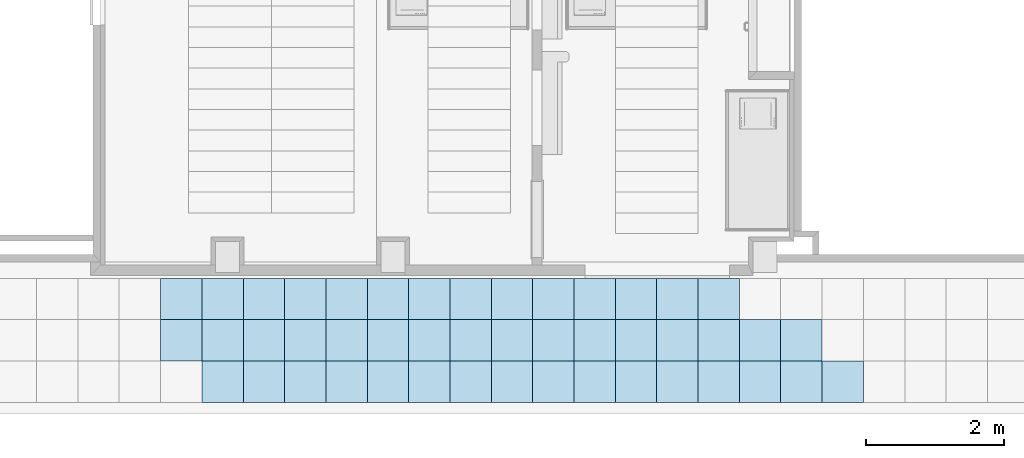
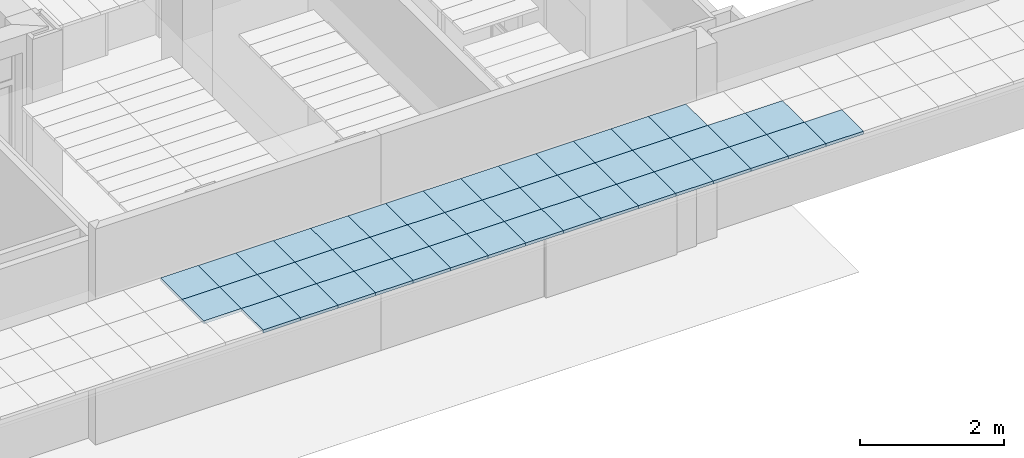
# One storey, part 20 of 60: 46 slabs.
"""IFC2X3 building model written with IfcOpenShell, lengths in millimetres."""

from ifc_helpers import new_model, entity, si_unit, converted_unit, derived_unit, money_unit, direction, frame, origin_with_axes, place, context, subcontext, project, spatial, polyline, outline, extrude, material, layer, layer_set, layer_usage, type_object, element, save


model = new_model("IFC2X3")

# Units and contexts
model_context = context("Model", 3, precision=0.01, world=origin_with_axes(), true_north=direction((0.0, 1.0)))
body_context = subcontext(model_context, "Body", "Model", "MODEL_VIEW")
ifc_project = project(units=[si_unit("LENGTHUNIT", "METRE", prefix="MILLI"), si_unit("AREAUNIT", "SQUARE_METRE"), si_unit("VOLUMEUNIT", "CUBIC_METRE"), converted_unit("PLANEANGLEUNIT", "DEGREE", entity("IfcPlaneAngleMeasure", 0.0174532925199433), si_unit("PLANEANGLEUNIT", "RADIAN"), dimensions=[0, 0, 0, 0, 0, 0, 0]), money_unit("USD"), converted_unit("TIMEUNIT", "Year", entity("IfcTimeMeasure", 31557600.0), si_unit("TIMEUNIT", "SECOND"), dimensions=[0, 0, 1, 0, 0, 0, 0]), si_unit("MASSUNIT", "GRAM", prefix="KILO"), si_unit("THERMODYNAMICTEMPERATUREUNIT", "DEGREE_CELSIUS"), si_unit("LUMINOUSINTENSITYUNIT", "LUMEN"), si_unit("ENERGYUNIT", "JOULE", prefix="MEGA"), derived_unit("THERMALCONDUCTANCEUNIT", [(si_unit("POWERUNIT", "WATT"), 1), (si_unit("LENGTHUNIT", "METRE"), -1), (si_unit("THERMODYNAMICTEMPERATUREUNIT", "KELVIN"), -1)]), derived_unit("SPECIFICHEATCAPACITYUNIT", [(si_unit("ENERGYUNIT", "JOULE"), 1), (si_unit("MASSUNIT", "GRAM", prefix="KILO"), -1), (si_unit("THERMODYNAMICTEMPERATUREUNIT", "KELVIN"), -1)]), derived_unit("MASSDENSITYUNIT", [(si_unit("MASSUNIT", "GRAM", prefix="KILO"), 1), (si_unit("VOLUMEUNIT", "CUBIC_METRE"), -1)])], contexts=[model_context])

# Site, building, storey
site_placement = place(None, origin_with_axes())
site = spatial("IfcSite", under=ifc_project, at=site_placement, Name="Sitio", CompositionType="ELEMENT")
building_placement = place(site_placement, origin_with_axes())
building = spatial("IfcBuilding", under=site, at=building_placement, Name="Construcción", CompositionType="ELEMENT")
storey_placement = place(building_placement, frame((0.0, 0.0, 3650.0), z_axis=(0.0, 0.0, 1.0), x_axis=(1.0, 0.0, 0.0)))
storey = spatial("IfcBuildingStorey", under=building, at=storey_placement, Name="PLANTA 2ª", CompositionType="ELEMENT", Elevation=3650.0)

# Slabs
ifc_material = material(Name="ARQ_CE217_Armstrong 60x60")
ifc_layer = layer(ifc_material, 50.0, ventilated="UNKNOWN")
ifc_layer_set = layer_set([ifc_layer], Name="ARQ_CE217_Armstrong 60x60 50")
ifc_layer_usage_1 = layer_usage(ifc_layer_set, "AXIS3", "NEGATIVE", 50.0)
slab_type = type_object("IfcSlabType", Name="ARQ_CE217_Armstrong 60x60 50", PredefinedType="NOTDEFINED")
slab_1_placement = place(storey_placement, frame((-2769.703283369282, -18521.97576450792, 2500.0), z_axis=(0.0, 0.0, 1.0), x_axis=(1.0, 0.0, 0.0)))
element("IfcSlab", 1, at=slab_1_placement, inside=storey, type_object=slab_type, material=ifc_layer_usage_1, Name="SLA - 026", PredefinedType="NOTDEFINED", context=body_context, shape_type="SweptSolid", body=[
    extrude(outline(polyline([(0.0, 0.0), (600.0000000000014, 0.0), (600.0000000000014, 600.0000000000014), (0.0, 600.0000000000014), (0.0, 0.0)])), frame((0.0, 0.0, -50.0), z_axis=(0.0, 0.0, 1.0), x_axis=(1.0, 0.0, 0.0)), (0.0, 0.0, 1.0), 50.0),
])
ifc_layer_usage_2 = layer_usage(ifc_layer_set, "AXIS3", "NEGATIVE", 50.0)
slab_2_placement = place(storey_placement, frame((-2769.703283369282, -17921.97576450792, 2500.0), z_axis=(0.0, 0.0, 1.0), x_axis=(1.0, 0.0, 0.0)))
element("IfcSlab", 2, at=slab_2_placement, inside=storey, type_object=slab_type, material=ifc_layer_usage_2, Name="SLA - 026", PredefinedType="NOTDEFINED", context=body_context, shape_type="SweptSolid", body=[
    extrude(outline(polyline([(0.0, 0.0), (600.0000000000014, 0.0), (600.0000000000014, 600.0000000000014), (0.0, 600.0000000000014), (0.0, 0.0)])), frame((0.0, 0.0, -50.0), z_axis=(0.0, 0.0, 1.0), x_axis=(1.0, 0.0, 0.0)), (0.0, 0.0, 1.0), 50.0),
])
ifc_layer_usage_3 = layer_usage(ifc_layer_set, "AXIS3", "NEGATIVE", 50.0)
slab_3_placement = place(storey_placement, frame((-2169.70328336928, -18521.97576450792, 2500.0), z_axis=(0.0, 0.0, 1.0), x_axis=(1.0, 0.0, 0.0)))
element("IfcSlab", 3, at=slab_3_placement, inside=storey, type_object=slab_type, material=ifc_layer_usage_3, Name="SLA - 026", PredefinedType="NOTDEFINED", context=body_context, shape_type="SweptSolid", body=[
    extrude(outline(polyline([(0.0, 0.0), (600.0000000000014, 0.0), (600.0000000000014, 600.0000000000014), (0.0, 600.0000000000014), (0.0, 0.0)])), frame((0.0, 0.0, -50.0), z_axis=(0.0, 0.0, 1.0), x_axis=(1.0, 0.0, 0.0)), (0.0, 0.0, 1.0), 50.0),
])
ifc_layer_usage_4 = layer_usage(ifc_layer_set, "AXIS3", "NEGATIVE", 50.0)
slab_4_placement = place(storey_placement, frame((-2169.70328336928, -19121.97576450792, 2500.0), z_axis=(0.0, 0.0, 1.0), x_axis=(1.0, 0.0, 0.0)))
element("IfcSlab", 4, at=slab_4_placement, inside=storey, type_object=slab_type, material=ifc_layer_usage_4, Name="SLA - 026", PredefinedType="NOTDEFINED", context=body_context, shape_type="SweptSolid", body=[
    extrude(outline(polyline([(0.0, 0.0), (600.0000000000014, 0.0), (600.0000000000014, 600.0000000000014), (0.0, 600.0000000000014), (0.0, 0.0)])), frame((0.0, 0.0, -50.0), z_axis=(0.0, 0.0, 1.0), x_axis=(1.0, 0.0, 0.0)), (0.0, 0.0, 1.0), 50.0),
])
ifc_layer_usage_5 = layer_usage(ifc_layer_set, "AXIS3", "NEGATIVE", 50.0)
slab_5_placement = place(storey_placement, frame((-1569.703283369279, -19121.97576450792, 2500.0), z_axis=(0.0, 0.0, 1.0), x_axis=(1.0, 0.0, 0.0)))
element("IfcSlab", 5, at=slab_5_placement, inside=storey, type_object=slab_type, material=ifc_layer_usage_5, Name="SLA - 026", PredefinedType="NOTDEFINED", context=body_context, shape_type="SweptSolid", body=[
    extrude(outline(polyline([(0.0, 0.0), (600.0000000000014, 0.0), (600.0000000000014, 600.0000000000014), (0.0, 600.0000000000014), (0.0, 0.0)])), frame((0.0, 0.0, -50.0), z_axis=(0.0, 0.0, 1.0), x_axis=(1.0, 0.0, 0.0)), (0.0, 0.0, 1.0), 50.0),
])
ifc_layer_usage_6 = layer_usage(ifc_layer_set, "AXIS3", "NEGATIVE", 50.0)
slab_6_placement = place(storey_placement, frame((-1569.703283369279, -17921.97576450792, 2500.0), z_axis=(0.0, 0.0, 1.0), x_axis=(1.0, 0.0, 0.0)))
element("IfcSlab", 6, at=slab_6_placement, inside=storey, type_object=slab_type, material=ifc_layer_usage_6, Name="SLA - 026", PredefinedType="NOTDEFINED", context=body_context, shape_type="SweptSolid", body=[
    extrude(outline(polyline([(0.0, 0.0), (600.0000000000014, 0.0), (600.0000000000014, 600.0000000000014), (0.0, 600.0000000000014), (0.0, 0.0)])), frame((0.0, 0.0, -50.0), z_axis=(0.0, 0.0, 1.0), x_axis=(1.0, 0.0, 0.0)), (0.0, 0.0, 1.0), 50.0),
])
ifc_layer_usage_7 = layer_usage(ifc_layer_set, "AXIS3", "NEGATIVE", 50.0)
slab_7_placement = place(storey_placement, frame((-1569.703283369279, -18521.97576450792, 2500.0), z_axis=(0.0, 0.0, 1.0), x_axis=(1.0, 0.0, 0.0)))
element("IfcSlab", 7, at=slab_7_placement, inside=storey, type_object=slab_type, material=ifc_layer_usage_7, Name="SLA - 026", PredefinedType="NOTDEFINED", context=body_context, shape_type="SweptSolid", body=[
    extrude(outline(polyline([(0.0, 0.0), (600.0000000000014, 0.0), (600.0000000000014, 600.0000000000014), (0.0, 600.0000000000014), (0.0, 0.0)])), frame((0.0, 0.0, -50.0), z_axis=(0.0, 0.0, 1.0), x_axis=(1.0, 0.0, 0.0)), (0.0, 0.0, 1.0), 50.0),
])
ifc_layer_usage_8 = layer_usage(ifc_layer_set, "AXIS3", "NEGATIVE", 50.0)
slab_8_placement = place(storey_placement, frame((-969.7032833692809, -19121.97576450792, 2500.0), z_axis=(0.0, 0.0, 1.0), x_axis=(1.0, 0.0, 0.0)))
element("IfcSlab", 8, at=slab_8_placement, inside=storey, type_object=slab_type, material=ifc_layer_usage_8, Name="SLA - 026", PredefinedType="NOTDEFINED", context=body_context, shape_type="SweptSolid", body=[
    extrude(outline(polyline([(0.0, 0.0), (600.0000000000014, 0.0), (600.0000000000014, 600.0000000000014), (0.0, 600.0000000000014), (0.0, 0.0)])), frame((0.0, 0.0, -50.0), z_axis=(0.0, 0.0, 1.0), x_axis=(1.0, 0.0, 0.0)), (0.0, 0.0, 1.0), 50.0),
])
ifc_layer_usage_9 = layer_usage(ifc_layer_set, "AXIS3", "NEGATIVE", 50.0)
slab_9_placement = place(storey_placement, frame((-969.7032833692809, -18521.97576450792, 2500.0), z_axis=(0.0, 0.0, 1.0), x_axis=(1.0, 0.0, 0.0)))
element("IfcSlab", 9, at=slab_9_placement, inside=storey, type_object=slab_type, material=ifc_layer_usage_9, Name="SLA - 026", PredefinedType="NOTDEFINED", context=body_context, shape_type="SweptSolid", body=[
    extrude(outline(polyline([(0.0, 0.0), (600.0000000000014, 0.0), (600.0000000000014, 600.0000000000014), (0.0, 600.0000000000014), (0.0, 0.0)])), frame((0.0, 0.0, -50.0), z_axis=(0.0, 0.0, 1.0), x_axis=(1.0, 0.0, 0.0)), (0.0, 0.0, 1.0), 50.0),
])
ifc_layer_usage_10 = layer_usage(ifc_layer_set, "AXIS3", "NEGATIVE", 50.0)
slab_10_placement = place(storey_placement, frame((-2169.70328336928, -17921.97576450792, 2500.0), z_axis=(0.0, 0.0, 1.0), x_axis=(1.0, 0.0, 0.0)))
element("IfcSlab", 10, at=slab_10_placement, inside=storey, type_object=slab_type, material=ifc_layer_usage_10, Name="SLA - 026", PredefinedType="NOTDEFINED", context=body_context, shape_type="SweptSolid", body=[
    extrude(outline(polyline([(0.0, 0.0), (600.0000000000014, 0.0), (600.0000000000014, 600.0000000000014), (0.0, 600.0000000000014), (0.0, 0.0)])), frame((0.0, 0.0, -50.0), z_axis=(0.0, 0.0, 1.0), x_axis=(1.0, 0.0, 0.0)), (0.0, 0.0, 1.0), 50.0),
])
ifc_layer_usage_11 = layer_usage(ifc_layer_set, "AXIS3", "NEGATIVE", 50.0)
slab_11_placement = place(storey_placement, frame((-969.7032833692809, -17921.97576450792, 2500.0), z_axis=(0.0, 0.0, 1.0), x_axis=(1.0, 0.0, 0.0)))
element("IfcSlab", 11, at=slab_11_placement, inside=storey, type_object=slab_type, material=ifc_layer_usage_11, Name="SLA - 026", PredefinedType="NOTDEFINED", context=body_context, shape_type="SweptSolid", body=[
    extrude(outline(polyline([(0.0, 0.0), (600.0000000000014, 0.0), (600.0000000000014, 600.0000000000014), (0.0, 600.0000000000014), (0.0, 0.0)])), frame((0.0, 0.0, -50.0), z_axis=(0.0, 0.0, 1.0), x_axis=(1.0, 0.0, 0.0)), (0.0, 0.0, 1.0), 50.0),
])
ifc_layer_usage_12 = layer_usage(ifc_layer_set, "AXIS3", "NEGATIVE", 50.0)
slab_12_placement = place(storey_placement, frame((-369.7032833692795, -18521.97576450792, 2500.0), z_axis=(0.0, 0.0, 1.0), x_axis=(1.0, 0.0, 0.0)))
element("IfcSlab", 12, at=slab_12_placement, inside=storey, type_object=slab_type, material=ifc_layer_usage_12, Name="SLA - 026", PredefinedType="NOTDEFINED", context=body_context, shape_type="SweptSolid", body=[
    extrude(outline(polyline([(0.0, 0.0), (600.0000000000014, 0.0), (600.0000000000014, 600.0000000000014), (0.0, 600.0000000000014), (0.0, 0.0)])), frame((0.0, 0.0, -50.0), z_axis=(0.0, 0.0, 1.0), x_axis=(1.0, 0.0, 0.0)), (0.0, 0.0, 1.0), 50.0),
])
ifc_layer_usage_13 = layer_usage(ifc_layer_set, "AXIS3", "NEGATIVE", 50.0)
slab_13_placement = place(storey_placement, frame((-369.7032833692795, -19121.97576450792, 2500.0), z_axis=(0.0, 0.0, 1.0), x_axis=(1.0, 0.0, 0.0)))
element("IfcSlab", 13, at=slab_13_placement, inside=storey, type_object=slab_type, material=ifc_layer_usage_13, Name="SLA - 026", PredefinedType="NOTDEFINED", context=body_context, shape_type="SweptSolid", body=[
    extrude(outline(polyline([(0.0, 0.0), (600.0000000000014, 0.0), (600.0000000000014, 600.0000000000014), (0.0, 600.0000000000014), (0.0, 0.0)])), frame((0.0, 0.0, -50.0), z_axis=(0.0, 0.0, 1.0), x_axis=(1.0, 0.0, 0.0)), (0.0, 0.0, 1.0), 50.0),
])
ifc_layer_usage_14 = layer_usage(ifc_layer_set, "AXIS3", "NEGATIVE", 50.0)
slab_14_placement = place(storey_placement, frame((230.2967166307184, -19121.97576450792, 2500.0), z_axis=(0.0, 0.0, 1.0), x_axis=(1.0, 0.0, 0.0)))
element("IfcSlab", 14, at=slab_14_placement, inside=storey, type_object=slab_type, material=ifc_layer_usage_14, Name="SLA - 026", PredefinedType="NOTDEFINED", context=body_context, shape_type="SweptSolid", body=[
    extrude(outline(polyline([(0.0, 0.0), (600.0000000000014, 0.0), (600.0000000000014, 600.0000000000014), (0.0, 600.0000000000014), (0.0, 0.0)])), frame((0.0, 0.0, -50.0), z_axis=(0.0, 0.0, 1.0), x_axis=(1.0, 0.0, 0.0)), (0.0, 0.0, 1.0), 50.0),
])
ifc_layer_usage_15 = layer_usage(ifc_layer_set, "AXIS3", "NEGATIVE", 50.0)
slab_15_placement = place(storey_placement, frame((-369.7032833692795, -17921.97576450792, 2500.0), z_axis=(0.0, 0.0, 1.0), x_axis=(1.0, 0.0, 0.0)))
element("IfcSlab", 15, at=slab_15_placement, inside=storey, type_object=slab_type, material=ifc_layer_usage_15, Name="SLA - 026", PredefinedType="NOTDEFINED", context=body_context, shape_type="SweptSolid", body=[
    extrude(outline(polyline([(0.0, 0.0), (600.0000000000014, 0.0), (600.0000000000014, 600.0000000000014), (0.0, 600.0000000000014), (0.0, 0.0)])), frame((0.0, 0.0, -50.0), z_axis=(0.0, 0.0, 1.0), x_axis=(1.0, 0.0, 0.0)), (0.0, 0.0, 1.0), 50.0),
])
ifc_layer_usage_16 = layer_usage(ifc_layer_set, "AXIS3", "NEGATIVE", 50.0)
slab_16_placement = place(storey_placement, frame((230.2967166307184, -18521.97576450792, 2500.0), z_axis=(0.0, 0.0, 1.0), x_axis=(1.0, 0.0, 0.0)))
element("IfcSlab", 16, at=slab_16_placement, inside=storey, type_object=slab_type, material=ifc_layer_usage_16, Name="SLA - 026", PredefinedType="NOTDEFINED", context=body_context, shape_type="SweptSolid", body=[
    extrude(outline(polyline([(0.0, 0.0), (600.0000000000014, 0.0), (600.0000000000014, 600.0000000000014), (0.0, 600.0000000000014), (0.0, 0.0)])), frame((0.0, 0.0, -50.0), z_axis=(0.0, 0.0, 1.0), x_axis=(1.0, 0.0, 0.0)), (0.0, 0.0, 1.0), 50.0),
])
ifc_layer_usage_17 = layer_usage(ifc_layer_set, "AXIS3", "NEGATIVE", 50.0)
slab_17_placement = place(storey_placement, frame((830.2967166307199, -19121.97576450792, 2500.0), z_axis=(0.0, 0.0, 1.0), x_axis=(1.0, 0.0, 0.0)))
element("IfcSlab", 17, at=slab_17_placement, inside=storey, type_object=slab_type, material=ifc_layer_usage_17, Name="SLA - 026", PredefinedType="NOTDEFINED", context=body_context, shape_type="SweptSolid", body=[
    extrude(outline(polyline([(0.0, 0.0), (600.0000000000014, 0.0), (600.0000000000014, 600.0000000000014), (0.0, 600.0000000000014), (0.0, 0.0)])), frame((0.0, 0.0, -50.0), z_axis=(0.0, 0.0, 1.0), x_axis=(1.0, 0.0, 0.0)), (0.0, 0.0, 1.0), 50.0),
])
ifc_layer_usage_18 = layer_usage(ifc_layer_set, "AXIS3", "NEGATIVE", 50.0)
slab_18_placement = place(storey_placement, frame((830.2967166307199, -18521.97576450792, 2500.0), z_axis=(0.0, 0.0, 1.0), x_axis=(1.0, 0.0, 0.0)))
element("IfcSlab", 18, at=slab_18_placement, inside=storey, type_object=slab_type, material=ifc_layer_usage_18, Name="SLA - 026", PredefinedType="NOTDEFINED", context=body_context, shape_type="SweptSolid", body=[
    extrude(outline(polyline([(0.0, 0.0), (600.0000000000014, 0.0), (600.0000000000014, 600.0000000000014), (0.0, 600.0000000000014), (0.0, 0.0)])), frame((0.0, 0.0, -50.0), z_axis=(0.0, 0.0, 1.0), x_axis=(1.0, 0.0, 0.0)), (0.0, 0.0, 1.0), 50.0),
])
ifc_layer_usage_19 = layer_usage(ifc_layer_set, "AXIS3", "NEGATIVE", 50.0)
slab_19_placement = place(storey_placement, frame((830.2967166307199, -17921.97576450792, 2500.0), z_axis=(0.0, 0.0, 1.0), x_axis=(1.0, 0.0, 0.0)))
element("IfcSlab", 19, at=slab_19_placement, inside=storey, type_object=slab_type, material=ifc_layer_usage_19, Name="SLA - 026", PredefinedType="NOTDEFINED", context=body_context, shape_type="SweptSolid", body=[
    extrude(outline(polyline([(0.0, 0.0), (600.0000000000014, 0.0), (600.0000000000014, 600.0000000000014), (0.0, 600.0000000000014), (0.0, 0.0)])), frame((0.0, 0.0, -50.0), z_axis=(0.0, 0.0, 1.0), x_axis=(1.0, 0.0, 0.0)), (0.0, 0.0, 1.0), 50.0),
])
ifc_layer_usage_20 = layer_usage(ifc_layer_set, "AXIS3", "NEGATIVE", 50.0)
slab_20_placement = place(storey_placement, frame((1430.296716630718, -19121.97576450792, 2500.0), z_axis=(0.0, 0.0, 1.0), x_axis=(1.0, 0.0, 0.0)))
element("IfcSlab", 20, at=slab_20_placement, inside=storey, type_object=slab_type, material=ifc_layer_usage_20, Name="SLA - 026", PredefinedType="NOTDEFINED", context=body_context, shape_type="SweptSolid", body=[
    extrude(outline(polyline([(0.0, 0.0), (600.0000000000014, 0.0), (600.0000000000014, 600.0000000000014), (0.0, 600.0000000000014), (0.0, 0.0)])), frame((0.0, 0.0, -50.0), z_axis=(0.0, 0.0, 1.0), x_axis=(1.0, 0.0, 0.0)), (0.0, 0.0, 1.0), 50.0),
])
ifc_layer_usage_21 = layer_usage(ifc_layer_set, "AXIS3", "NEGATIVE", 50.0)
slab_21_placement = place(storey_placement, frame((1430.296716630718, -18521.97576450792, 2500.0), z_axis=(0.0, 0.0, 1.0), x_axis=(1.0, 0.0, 0.0)))
element("IfcSlab", 21, at=slab_21_placement, inside=storey, type_object=slab_type, material=ifc_layer_usage_21, Name="SLA - 026", PredefinedType="NOTDEFINED", context=body_context, shape_type="SweptSolid", body=[
    extrude(outline(polyline([(0.0, 0.0), (600.0000000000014, 0.0), (600.0000000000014, 600.0000000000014), (0.0, 600.0000000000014), (0.0, 0.0)])), frame((0.0, 0.0, -50.0), z_axis=(0.0, 0.0, 1.0), x_axis=(1.0, 0.0, 0.0)), (0.0, 0.0, 1.0), 50.0),
])
ifc_layer_usage_22 = layer_usage(ifc_layer_set, "AXIS3", "NEGATIVE", 50.0)
slab_22_placement = place(storey_placement, frame((230.2967166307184, -17921.97576450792, 2500.0), z_axis=(0.0, 0.0, 1.0), x_axis=(1.0, 0.0, 0.0)))
element("IfcSlab", 22, at=slab_22_placement, inside=storey, type_object=slab_type, material=ifc_layer_usage_22, Name="SLA - 026", PredefinedType="NOTDEFINED", context=body_context, shape_type="SweptSolid", body=[
    extrude(outline(polyline([(0.0, 0.0), (600.0000000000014, 0.0), (600.0000000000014, 600.0000000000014), (0.0, 600.0000000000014), (0.0, 0.0)])), frame((0.0, 0.0, -50.0), z_axis=(0.0, 0.0, 1.0), x_axis=(1.0, 0.0, 0.0)), (0.0, 0.0, 1.0), 50.0),
])
ifc_layer_usage_23 = layer_usage(ifc_layer_set, "AXIS3", "NEGATIVE", 50.0)
slab_23_placement = place(storey_placement, frame((2030.296716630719, -19121.97576450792, 2500.0), z_axis=(0.0, 0.0, 1.0), x_axis=(1.0, 0.0, 0.0)))
element("IfcSlab", 23, at=slab_23_placement, inside=storey, type_object=slab_type, material=ifc_layer_usage_23, Name="SLA - 026", PredefinedType="NOTDEFINED", context=body_context, shape_type="SweptSolid", body=[
    extrude(outline(polyline([(0.0, 0.0), (600.0000000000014, 0.0), (600.0000000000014, 600.0000000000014), (0.0, 600.0000000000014), (0.0, 0.0)])), frame((0.0, 0.0, -50.0), z_axis=(0.0, 0.0, 1.0), x_axis=(1.0, 0.0, 0.0)), (0.0, 0.0, 1.0), 50.0),
])
ifc_layer_usage_24 = layer_usage(ifc_layer_set, "AXIS3", "NEGATIVE", 50.0)
slab_24_placement = place(storey_placement, frame((2030.296716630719, -18521.97576450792, 2500.0), z_axis=(0.0, 0.0, 1.0), x_axis=(1.0, 0.0, 0.0)))
element("IfcSlab", 24, at=slab_24_placement, inside=storey, type_object=slab_type, material=ifc_layer_usage_24, Name="SLA - 026", PredefinedType="NOTDEFINED", context=body_context, shape_type="SweptSolid", body=[
    extrude(outline(polyline([(0.0, 0.0), (600.0000000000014, 0.0), (600.0000000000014, 600.0000000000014), (0.0, 600.0000000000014), (0.0, 0.0)])), frame((0.0, 0.0, -50.0), z_axis=(0.0, 0.0, 1.0), x_axis=(1.0, 0.0, 0.0)), (0.0, 0.0, 1.0), 50.0),
])
ifc_layer_usage_25 = layer_usage(ifc_layer_set, "AXIS3", "NEGATIVE", 50.0)
slab_25_placement = place(storey_placement, frame((1430.296716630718, -17921.97576450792, 2500.0), z_axis=(0.0, 0.0, 1.0), x_axis=(1.0, 0.0, 0.0)))
element("IfcSlab", 25, at=slab_25_placement, inside=storey, type_object=slab_type, material=ifc_layer_usage_25, Name="SLA - 026", PredefinedType="NOTDEFINED", context=body_context, shape_type="SweptSolid", body=[
    extrude(outline(polyline([(0.0, 0.0), (600.0000000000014, 0.0), (600.0000000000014, 600.0000000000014), (0.0, 600.0000000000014), (0.0, 0.0)])), frame((0.0, 0.0, -50.0), z_axis=(0.0, 0.0, 1.0), x_axis=(1.0, 0.0, 0.0)), (0.0, 0.0, 1.0), 50.0),
])
ifc_layer_usage_26 = layer_usage(ifc_layer_set, "AXIS3", "NEGATIVE", 50.0)
slab_26_placement = place(storey_placement, frame((2630.29671663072, -19121.97576450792, 2500.0), z_axis=(0.0, 0.0, 1.0), x_axis=(1.0, 0.0, 0.0)))
element("IfcSlab", 26, at=slab_26_placement, inside=storey, type_object=slab_type, material=ifc_layer_usage_26, Name="SLA - 026", PredefinedType="NOTDEFINED", context=body_context, shape_type="SweptSolid", body=[
    extrude(outline(polyline([(0.0, 0.0), (600.0000000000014, 0.0), (600.0000000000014, 600.0000000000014), (0.0, 600.0000000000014), (0.0, 0.0)])), frame((0.0, 0.0, -50.0), z_axis=(0.0, 0.0, 1.0), x_axis=(1.0, 0.0, 0.0)), (0.0, 0.0, 1.0), 50.0),
])
ifc_layer_usage_27 = layer_usage(ifc_layer_set, "AXIS3", "NEGATIVE", 50.0)
slab_27_placement = place(storey_placement, frame((2030.296716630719, -17921.97576450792, 2500.0), z_axis=(0.0, 0.0, 1.0), x_axis=(1.0, 0.0, 0.0)))
element("IfcSlab", 27, at=slab_27_placement, inside=storey, type_object=slab_type, material=ifc_layer_usage_27, Name="SLA - 026", PredefinedType="NOTDEFINED", context=body_context, shape_type="SweptSolid", body=[
    extrude(outline(polyline([(0.0, 0.0), (600.0000000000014, 0.0), (600.0000000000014, 600.0000000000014), (0.0, 600.0000000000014), (0.0, 0.0)])), frame((0.0, 0.0, -50.0), z_axis=(0.0, 0.0, 1.0), x_axis=(1.0, 0.0, 0.0)), (0.0, 0.0, 1.0), 50.0),
])
ifc_layer_usage_28 = layer_usage(ifc_layer_set, "AXIS3", "NEGATIVE", 50.0)
slab_28_placement = place(storey_placement, frame((2630.29671663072, -18521.97576450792, 2500.0), z_axis=(0.0, 0.0, 1.0), x_axis=(1.0, 0.0, 0.0)))
element("IfcSlab", 28, at=slab_28_placement, inside=storey, type_object=slab_type, material=ifc_layer_usage_28, Name="SLA - 026", PredefinedType="NOTDEFINED", context=body_context, shape_type="SweptSolid", body=[
    extrude(outline(polyline([(0.0, 0.0), (600.0000000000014, 0.0), (600.0000000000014, 600.0000000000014), (0.0, 600.0000000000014), (0.0, 0.0)])), frame((0.0, 0.0, -50.0), z_axis=(0.0, 0.0, 1.0), x_axis=(1.0, 0.0, 0.0)), (0.0, 0.0, 1.0), 50.0),
])
ifc_layer_usage_29 = layer_usage(ifc_layer_set, "AXIS3", "NEGATIVE", 50.0)
slab_29_placement = place(storey_placement, frame((2630.29671663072, -17921.97576450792, 2500.0), z_axis=(0.0, 0.0, 1.0), x_axis=(1.0, 0.0, 0.0)))
element("IfcSlab", 29, at=slab_29_placement, inside=storey, type_object=slab_type, material=ifc_layer_usage_29, Name="SLA - 026", PredefinedType="NOTDEFINED", context=body_context, shape_type="SweptSolid", body=[
    extrude(outline(polyline([(0.0, 0.0), (600.0000000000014, 0.0), (600.0000000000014, 600.0000000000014), (0.0, 600.0000000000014), (0.0, 0.0)])), frame((0.0, 0.0, -50.0), z_axis=(0.0, 0.0, 1.0), x_axis=(1.0, 0.0, 0.0)), (0.0, 0.0, 1.0), 50.0),
])
ifc_layer_usage_30 = layer_usage(ifc_layer_set, "AXIS3", "NEGATIVE", 50.0)
slab_30_placement = place(storey_placement, frame((3230.296716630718, -19121.97576450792, 2500.0), z_axis=(0.0, 0.0, 1.0), x_axis=(1.0, 0.0, 0.0)))
element("IfcSlab", 30, at=slab_30_placement, inside=storey, type_object=slab_type, material=ifc_layer_usage_30, Name="SLA - 026", PredefinedType="NOTDEFINED", context=body_context, shape_type="SweptSolid", body=[
    extrude(outline(polyline([(0.0, 0.0), (600.0000000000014, 0.0), (600.0000000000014, 600.0000000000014), (0.0, 600.0000000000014), (0.0, 0.0)])), frame((0.0, 0.0, -50.0), z_axis=(0.0, 0.0, 1.0), x_axis=(1.0, 0.0, 0.0)), (0.0, 0.0, 1.0), 50.0),
])
ifc_layer_usage_31 = layer_usage(ifc_layer_set, "AXIS3", "NEGATIVE", 50.0)
slab_31_placement = place(storey_placement, frame((3230.296716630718, -18521.97576450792, 2500.0), z_axis=(0.0, 0.0, 1.0), x_axis=(1.0, 0.0, 0.0)))
element("IfcSlab", 31, at=slab_31_placement, inside=storey, type_object=slab_type, material=ifc_layer_usage_31, Name="SLA - 026", PredefinedType="NOTDEFINED", context=body_context, shape_type="SweptSolid", body=[
    extrude(outline(polyline([(0.0, 0.0), (600.0000000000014, 0.0), (600.0000000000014, 600.0000000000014), (0.0, 600.0000000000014), (0.0, 0.0)])), frame((0.0, 0.0, -50.0), z_axis=(0.0, 0.0, 1.0), x_axis=(1.0, 0.0, 0.0)), (0.0, 0.0, 1.0), 50.0),
])
ifc_layer_usage_32 = layer_usage(ifc_layer_set, "AXIS3", "NEGATIVE", 50.0)
slab_32_placement = place(storey_placement, frame((3830.29671663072, -19121.97576450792, 2500.0), z_axis=(0.0, 0.0, 1.0), x_axis=(1.0, 0.0, 0.0)))
element("IfcSlab", 32, at=slab_32_placement, inside=storey, type_object=slab_type, material=ifc_layer_usage_32, Name="SLA - 026", PredefinedType="NOTDEFINED", context=body_context, shape_type="SweptSolid", body=[
    extrude(outline(polyline([(0.0, 0.0), (600.0000000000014, 0.0), (600.0000000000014, 600.0000000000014), (0.0, 600.0000000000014), (0.0, 0.0)])), frame((0.0, 0.0, -50.0), z_axis=(0.0, 0.0, 1.0), x_axis=(1.0, 0.0, 0.0)), (0.0, 0.0, 1.0), 50.0),
])
ifc_layer_usage_33 = layer_usage(ifc_layer_set, "AXIS3", "NEGATIVE", 50.0)
slab_33_placement = place(storey_placement, frame((3830.29671663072, -17921.97576450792, 2500.0), z_axis=(0.0, 0.0, 1.0), x_axis=(1.0, 0.0, 0.0)))
element("IfcSlab", 33, at=slab_33_placement, inside=storey, type_object=slab_type, material=ifc_layer_usage_33, Name="SLA - 026", PredefinedType="NOTDEFINED", context=body_context, shape_type="SweptSolid", body=[
    extrude(outline(polyline([(0.0, 0.0), (600.0000000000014, 0.0), (600.0000000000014, 600.0000000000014), (0.0, 600.0000000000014), (0.0, 0.0)])), frame((0.0, 0.0, -50.0), z_axis=(0.0, 0.0, 1.0), x_axis=(1.0, 0.0, 0.0)), (0.0, 0.0, 1.0), 50.0),
])
ifc_layer_usage_34 = layer_usage(ifc_layer_set, "AXIS3", "NEGATIVE", 50.0)
slab_34_placement = place(storey_placement, frame((3230.296716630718, -17921.97576450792, 2500.0), z_axis=(0.0, 0.0, 1.0), x_axis=(1.0, 0.0, 0.0)))
element("IfcSlab", 34, at=slab_34_placement, inside=storey, type_object=slab_type, material=ifc_layer_usage_34, Name="SLA - 026", PredefinedType="NOTDEFINED", context=body_context, shape_type="SweptSolid", body=[
    extrude(outline(polyline([(0.0, 0.0), (600.0000000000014, 0.0), (600.0000000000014, 600.0000000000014), (0.0, 600.0000000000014), (0.0, 0.0)])), frame((0.0, 0.0, -50.0), z_axis=(0.0, 0.0, 1.0), x_axis=(1.0, 0.0, 0.0)), (0.0, 0.0, 1.0), 50.0),
])
ifc_layer_usage_35 = layer_usage(ifc_layer_set, "AXIS3", "NEGATIVE", 50.0)
slab_35_placement = place(storey_placement, frame((4430.296716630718, -18521.97576450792, 2500.0), z_axis=(0.0, 0.0, 1.0), x_axis=(1.0, 0.0, 0.0)))
element("IfcSlab", 35, at=slab_35_placement, inside=storey, type_object=slab_type, material=ifc_layer_usage_35, Name="SLA - 026", PredefinedType="NOTDEFINED", context=body_context, shape_type="SweptSolid", body=[
    extrude(outline(polyline([(0.0, 0.0), (600.0000000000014, 0.0), (600.0000000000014, 600.0000000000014), (0.0, 600.0000000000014), (0.0, 0.0)])), frame((0.0, 0.0, -50.0), z_axis=(0.0, 0.0, 1.0), x_axis=(1.0, 0.0, 0.0)), (0.0, 0.0, 1.0), 50.0),
])
ifc_layer_usage_36 = layer_usage(ifc_layer_set, "AXIS3", "NEGATIVE", 50.0)
slab_36_placement = place(storey_placement, frame((4430.296716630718, -19121.97576450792, 2500.0), z_axis=(0.0, 0.0, 1.0), x_axis=(1.0, 0.0, 0.0)))
element("IfcSlab", 36, at=slab_36_placement, inside=storey, type_object=slab_type, material=ifc_layer_usage_36, Name="SLA - 026", PredefinedType="NOTDEFINED", context=body_context, shape_type="SweptSolid", body=[
    extrude(outline(polyline([(0.0, 0.0), (600.0000000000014, 0.0), (600.0000000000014, 600.0000000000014), (0.0, 600.0000000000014), (0.0, 0.0)])), frame((0.0, 0.0, -50.0), z_axis=(0.0, 0.0, 1.0), x_axis=(1.0, 0.0, 0.0)), (0.0, 0.0, 1.0), 50.0),
])
ifc_layer_usage_37 = layer_usage(ifc_layer_set, "AXIS3", "NEGATIVE", 50.0)
slab_37_placement = place(storey_placement, frame((5030.296716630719, -19121.97576450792, 2500.0), z_axis=(0.0, 0.0, 1.0), x_axis=(1.0, 0.0, 0.0)))
element("IfcSlab", 37, at=slab_37_placement, inside=storey, type_object=slab_type, material=ifc_layer_usage_37, Name="SLA - 026", PredefinedType="NOTDEFINED", context=body_context, shape_type="SweptSolid", body=[
    extrude(outline(polyline([(0.0, 0.0), (600.0000000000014, 0.0), (600.0000000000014, 600.0000000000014), (0.0, 600.0000000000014), (0.0, 0.0)])), frame((0.0, 0.0, -50.0), z_axis=(0.0, 0.0, 1.0), x_axis=(1.0, 0.0, 0.0)), (0.0, 0.0, 1.0), 50.0),
])
ifc_layer_usage_38 = layer_usage(ifc_layer_set, "AXIS3", "NEGATIVE", 50.0)
slab_38_placement = place(storey_placement, frame((5030.296716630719, -18521.97576450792, 2500.0), z_axis=(0.0, 0.0, 1.0), x_axis=(1.0, 0.0, 0.0)))
element("IfcSlab", 38, at=slab_38_placement, inside=storey, type_object=slab_type, material=ifc_layer_usage_38, Name="SLA - 026", PredefinedType="NOTDEFINED", context=body_context, shape_type="SweptSolid", body=[
    extrude(outline(polyline([(0.0, 0.0), (600.0000000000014, 0.0), (600.0000000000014, 600.0000000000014), (0.0, 600.0000000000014), (0.0, 0.0)])), frame((0.0, 0.0, -50.0), z_axis=(0.0, 0.0, 1.0), x_axis=(1.0, 0.0, 0.0)), (0.0, 0.0, 1.0), 50.0),
])
ifc_layer_usage_39 = layer_usage(ifc_layer_set, "AXIS3", "NEGATIVE", 50.0)
slab_39_placement = place(storey_placement, frame((4430.296716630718, -17921.97576450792, 2500.0), z_axis=(0.0, 0.0, 1.0), x_axis=(1.0, 0.0, 0.0)))
element("IfcSlab", 39, at=slab_39_placement, inside=storey, type_object=slab_type, material=ifc_layer_usage_39, Name="SLA - 026", PredefinedType="NOTDEFINED", context=body_context, shape_type="SweptSolid", body=[
    extrude(outline(polyline([(0.0, 0.0), (600.0000000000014, 0.0), (600.0000000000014, 600.0000000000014), (0.0, 600.0000000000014), (0.0, 0.0)])), frame((0.0, 0.0, -50.0), z_axis=(0.0, 0.0, 1.0), x_axis=(1.0, 0.0, 0.0)), (0.0, 0.0, 1.0), 50.0),
])
ifc_layer_usage_40 = layer_usage(ifc_layer_set, "AXIS3", "NEGATIVE", 50.0)
slab_40_placement = place(storey_placement, frame((5030.296716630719, -17921.97576450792, 2500.0), z_axis=(0.0, 0.0, 1.0), x_axis=(1.0, 0.0, 0.0)))
element("IfcSlab", 40, at=slab_40_placement, inside=storey, type_object=slab_type, material=ifc_layer_usage_40, Name="SLA - 026", PredefinedType="NOTDEFINED", context=body_context, shape_type="SweptSolid", body=[
    extrude(outline(polyline([(0.0, 0.0), (600.0000000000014, 0.0), (600.0000000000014, 600.0000000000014), (0.0, 600.0000000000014), (0.0, 0.0)])), frame((0.0, 0.0, -50.0), z_axis=(0.0, 0.0, 1.0), x_axis=(1.0, 0.0, 0.0)), (0.0, 0.0, 1.0), 50.0),
])
ifc_layer_usage_41 = layer_usage(ifc_layer_set, "AXIS3", "NEGATIVE", 50.0)
slab_41_placement = place(storey_placement, frame((5630.296716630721, -19121.97576450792, 2500.0), z_axis=(0.0, 0.0, 1.0), x_axis=(1.0, 0.0, 0.0)))
element("IfcSlab", 41, at=slab_41_placement, inside=storey, type_object=slab_type, material=ifc_layer_usage_41, Name="SLA - 026", PredefinedType="NOTDEFINED", context=body_context, shape_type="SweptSolid", body=[
    extrude(outline(polyline([(0.0, 0.0), (600.0000000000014, 0.0), (600.0000000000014, 600.0000000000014), (0.0, 600.0000000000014), (0.0, 0.0)])), frame((0.0, 0.0, -50.0), z_axis=(0.0, 0.0, 1.0), x_axis=(1.0, 0.0, 0.0)), (0.0, 0.0, 1.0), 50.0),
])
ifc_layer_usage_42 = layer_usage(ifc_layer_set, "AXIS3", "NEGATIVE", 50.0)
slab_42_placement = place(storey_placement, frame((5630.296716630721, -18521.97576450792, 2500.0), z_axis=(0.0, 0.0, 1.0), x_axis=(1.0, 0.0, 0.0)))
element("IfcSlab", 42, at=slab_42_placement, inside=storey, type_object=slab_type, material=ifc_layer_usage_42, Name="SLA - 026", PredefinedType="NOTDEFINED", context=body_context, shape_type="SweptSolid", body=[
    extrude(outline(polyline([(0.0, 0.0), (600.0000000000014, 0.0), (600.0000000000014, 600.0000000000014), (0.0, 600.0000000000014), (0.0, 0.0)])), frame((0.0, 0.0, -50.0), z_axis=(0.0, 0.0, 1.0), x_axis=(1.0, 0.0, 0.0)), (0.0, 0.0, 1.0), 50.0),
])
ifc_layer_usage_43 = layer_usage(ifc_layer_set, "AXIS3", "NEGATIVE", 50.0)
slab_43_placement = place(storey_placement, frame((3830.29671663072, -18521.97576450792, 2500.0), z_axis=(0.0, 0.0, 1.0), x_axis=(1.0, 0.0, 0.0)))
element("IfcSlab", 43, at=slab_43_placement, inside=storey, type_object=slab_type, material=ifc_layer_usage_43, Name="SLA - 026", PredefinedType="NOTDEFINED", context=body_context, shape_type="SweptSolid", body=[
    extrude(outline(polyline([(0.0, 0.0), (600.0000000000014, 0.0), (600.0000000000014, 600.0000000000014), (0.0, 600.0000000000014), (0.0, 0.0)])), frame((0.0, 0.0, -50.0), z_axis=(0.0, 0.0, 1.0), x_axis=(1.0, 0.0, 0.0)), (0.0, 0.0, 1.0), 50.0),
])
ifc_layer_usage_44 = layer_usage(ifc_layer_set, "AXIS3", "NEGATIVE", 50.0)
slab_44_placement = place(storey_placement, frame((6230.296716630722, -19121.97576450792, 2500.0), z_axis=(0.0, 0.0, 1.0), x_axis=(1.0, 0.0, 0.0)))
element("IfcSlab", 44, at=slab_44_placement, inside=storey, type_object=slab_type, material=ifc_layer_usage_44, Name="SLA - 026", PredefinedType="NOTDEFINED", context=body_context, shape_type="SweptSolid", body=[
    extrude(outline(polyline([(0.0, 0.0), (600.0000000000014, 0.0), (600.0000000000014, 600.0000000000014), (0.0, 600.0000000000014), (0.0, 0.0)])), frame((0.0, 0.0, -50.0), z_axis=(0.0, 0.0, 1.0), x_axis=(1.0, 0.0, 0.0)), (0.0, 0.0, 1.0), 50.0),
])
ifc_layer_usage_45 = layer_usage(ifc_layer_set, "AXIS3", "NEGATIVE", 50.0)
slab_45_placement = place(storey_placement, frame((6230.296716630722, -18521.97576450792, 2500.0), z_axis=(0.0, 0.0, 1.0), x_axis=(1.0, 0.0, 0.0)))
element("IfcSlab", 45, at=slab_45_placement, inside=storey, type_object=slab_type, material=ifc_layer_usage_45, Name="SLA - 026", PredefinedType="NOTDEFINED", context=body_context, shape_type="SweptSolid", body=[
    extrude(outline(polyline([(0.0, 0.0), (600.0000000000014, 0.0), (600.0000000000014, 600.0000000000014), (0.0, 600.0000000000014), (0.0, 0.0)])), frame((0.0, 0.0, -50.0), z_axis=(0.0, 0.0, 1.0), x_axis=(1.0, 0.0, 0.0)), (0.0, 0.0, 1.0), 50.0),
])
ifc_layer_usage_46 = layer_usage(ifc_layer_set, "AXIS3", "NEGATIVE", 50.0)
slab_46_placement = place(storey_placement, frame((6830.296716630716, -19121.97576450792, 2500.0), z_axis=(0.0, 0.0, 1.0), x_axis=(1.0, 0.0, 0.0)))
element("IfcSlab", 46, at=slab_46_placement, inside=storey, type_object=slab_type, material=ifc_layer_usage_46, Name="SLA - 026", PredefinedType="NOTDEFINED", context=body_context, shape_type="SweptSolid", body=[
    extrude(outline(polyline([(0.0, 0.0), (600.0000000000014, 0.0), (600.0000000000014, 600.0000000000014), (0.0, 600.0000000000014), (0.0, 0.0)])), frame((0.0, 0.0, -50.0), z_axis=(0.0, 0.0, 1.0), x_axis=(1.0, 0.0, 0.0)), (0.0, 0.0, 1.0), 50.0),
])

save(model, "model.ifc")
